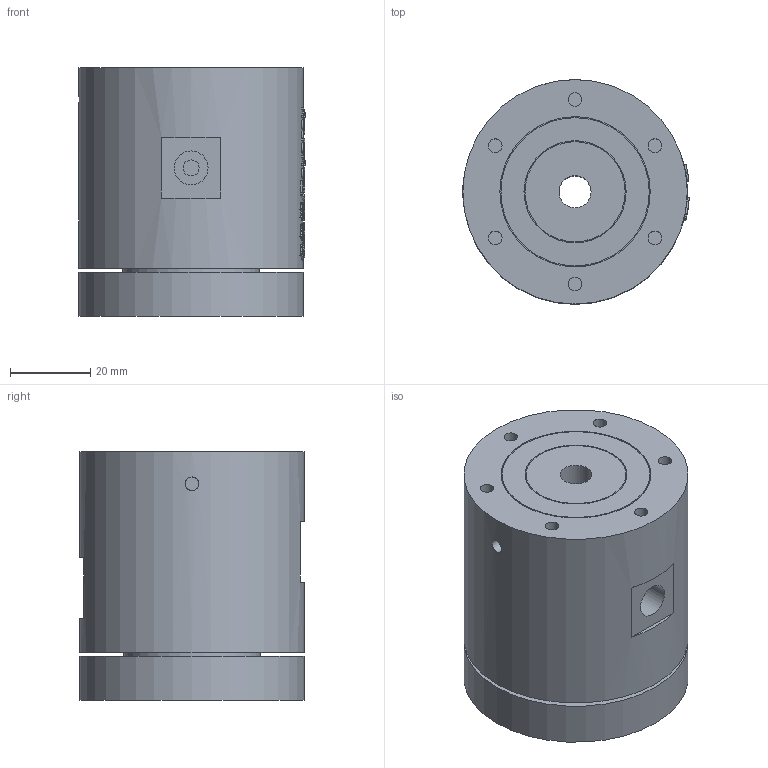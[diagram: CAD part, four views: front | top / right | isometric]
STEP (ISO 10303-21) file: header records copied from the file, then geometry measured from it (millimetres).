
FILE_DESCRIPTION(/* description */ (''),/* implementation_level */ '2;1');
FILE_NAME(/* name */ 'HQD0201.stp',/* time_stamp */ '2025-01-20T15:28:47+08:00',/* author */ (''),/* organization */ (''),/* preprocessor_version */ 'ST-DEVELOPER v16.7',/* originating_system */ 'SIEMENS PLM Software NX 12.0',/* authorisation */ '');
FILE_SCHEMA (('AUTOMOTIVE_DESIGN { 1 0 10303 214 3 1 1 1 }'));
Length unit declared in the file: millimetre
Products named in the file (1): HX056BE06534dbrj
Bounding box: 56.47 x 56 x 62 mm (x, y, z)
Volume: 144225.5 mm3; surface area: 23761.9 mm2
Topology: 1 solids, 1 shells, 377 faces, 936 edges, 629 vertices
Faces by surface type: plane 216, extrusion 88, cylinder 44, bspline 29
Full cylindrical faces by diameter (mm): 3.4 x12, 4 x4, 8 x1, 8.5 x4, 25 x1, 25.5 x1, 34 x1, 37 x1, 37.5 x1, 56 x2
Entity records: 29755 total; most frequent: CARTESIAN_POINT 21958, ORIENTED_EDGE 1766, DIRECTION 1106, EDGE_CURVE 883, B_SPLINE_CURVE_WITH_KNOTS 663, VERTEX_POINT 622, EDGE_LOOP 501, AXIS2_PLACEMENT_3D 449
